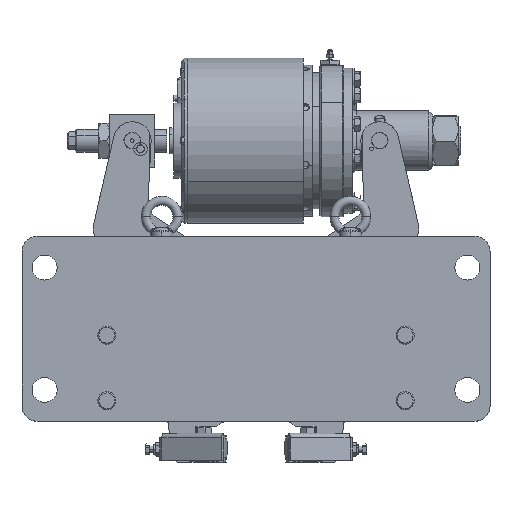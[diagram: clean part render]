
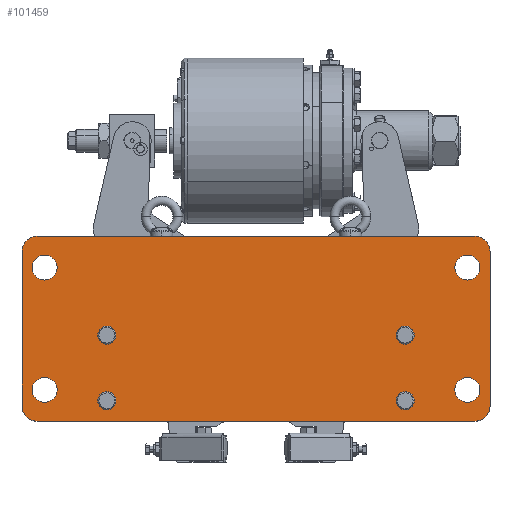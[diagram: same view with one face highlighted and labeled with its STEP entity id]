
A CAD part, top view. The second image highlights one B-rep face of the part: STEP entity #101459.
In plain terms, the highlighted planar face has unit normal (0, 0, 1).
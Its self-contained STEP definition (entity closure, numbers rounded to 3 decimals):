
#100494=CARTESIAN_POINT('',(290.,225.,45.));
#100495=DIRECTION('',(0.,0.,-1.));
#100496=DIRECTION('',(0.,1.,0.));
#100497=AXIS2_PLACEMENT_3D('',#100494,#100495,#100496);
#100502=CARTESIAN_POINT('',(290.,20.,45.));
#100503=DIRECTION('',(0.,0.,-1.));
#100504=DIRECTION('',(1.,0.,0.));
#100505=AXIS2_PLACEMENT_3D('',#100502,#100503,#100504);
#100510=CARTESIAN_POINT('',(-290.,20.,45.));
#100511=DIRECTION('',(0.,0.,-1.));
#100512=DIRECTION('',(0.,-1.,0.));
#100513=AXIS2_PLACEMENT_3D('',#100510,#100511,#100512);
#100518=CARTESIAN_POINT('',(-290.,225.,45.));
#100519=DIRECTION('',(0.,0.,-1.));
#100520=DIRECTION('',(-1.,0.,0.));
#100521=AXIS2_PLACEMENT_3D('',#100518,#100519,#100520);
#100526=CARTESIAN_POINT('',(197.5,27.,45.));
#100527=DIRECTION('',(0.,0.,1.));
#100528=DIRECTION('',(1.,0.,0.));
#100529=AXIS2_PLACEMENT_3D('',#100526,#100527,#100528);
#100534=CARTESIAN_POINT('',(197.5,27.,45.));
#100535=DIRECTION('',(0.,0.,1.));
#100536=DIRECTION('',(-1.,0.,0.));
#100537=AXIS2_PLACEMENT_3D('',#100534,#100535,#100536);
#100542=CARTESIAN_POINT('',(197.5,114.,45.));
#100543=DIRECTION('',(0.,0.,1.));
#100544=DIRECTION('',(1.,0.,0.));
#100545=AXIS2_PLACEMENT_3D('',#100542,#100543,#100544);
#100550=CARTESIAN_POINT('',(197.5,114.,45.));
#100551=DIRECTION('',(0.,0.,1.));
#100552=DIRECTION('',(-1.,0.,0.));
#100553=AXIS2_PLACEMENT_3D('',#100550,#100551,#100552);
#100558=CARTESIAN_POINT('',(-197.5,27.,45.));
#100559=DIRECTION('',(0.,0.,1.));
#100560=DIRECTION('',(1.,0.,0.));
#100561=AXIS2_PLACEMENT_3D('',#100558,#100559,#100560);
#100566=CARTESIAN_POINT('',(-197.5,27.,45.));
#100567=DIRECTION('',(0.,0.,1.));
#100568=DIRECTION('',(-1.,0.,0.));
#100569=AXIS2_PLACEMENT_3D('',#100566,#100567,#100568);
#100574=CARTESIAN_POINT('',(-197.5,114.,45.));
#100575=DIRECTION('',(0.,0.,1.));
#100576=DIRECTION('',(1.,0.,0.));
#100577=AXIS2_PLACEMENT_3D('',#100574,#100575,#100576);
#100582=CARTESIAN_POINT('',(-197.5,114.,45.));
#100583=DIRECTION('',(0.,0.,1.));
#100584=DIRECTION('',(-1.,0.,0.));
#100585=AXIS2_PLACEMENT_3D('',#100582,#100583,#100584);
#100590=CARTESIAN_POINT('',(280.,41.5,45.));
#100591=DIRECTION('',(0.,0.,1.));
#100592=DIRECTION('',(-1.,0.,0.));
#100593=AXIS2_PLACEMENT_3D('',#100590,#100591,#100592);
#100598=CARTESIAN_POINT('',(280.,41.5,45.));
#100599=DIRECTION('',(0.,0.,1.));
#100600=DIRECTION('',(1.,0.,0.));
#100601=AXIS2_PLACEMENT_3D('',#100598,#100599,#100600);
#100606=CARTESIAN_POINT('',(-280.,41.5,45.));
#100607=DIRECTION('',(0.,0.,1.));
#100608=DIRECTION('',(-1.,0.,0.));
#100609=AXIS2_PLACEMENT_3D('',#100606,#100607,#100608);
#100614=CARTESIAN_POINT('',(-280.,41.5,45.));
#100615=DIRECTION('',(0.,0.,1.));
#100616=DIRECTION('',(1.,0.,0.));
#100617=AXIS2_PLACEMENT_3D('',#100614,#100615,#100616);
#100622=CARTESIAN_POINT('',(-280.,203.5,45.));
#100623=DIRECTION('',(0.,0.,1.));
#100624=DIRECTION('',(-1.,0.,0.));
#100625=AXIS2_PLACEMENT_3D('',#100622,#100623,#100624);
#100630=CARTESIAN_POINT('',(-280.,203.5,45.));
#100631=DIRECTION('',(0.,0.,1.));
#100632=DIRECTION('',(1.,0.,0.));
#100633=AXIS2_PLACEMENT_3D('',#100630,#100631,#100632);
#100638=CARTESIAN_POINT('',(280.,203.5,45.));
#100639=DIRECTION('',(0.,0.,1.));
#100640=DIRECTION('',(-1.,0.,0.));
#100641=AXIS2_PLACEMENT_3D('',#100638,#100639,#100640);
#100646=CARTESIAN_POINT('',(280.,203.5,45.));
#100647=DIRECTION('',(0.,0.,1.));
#100648=DIRECTION('',(1.,0.,0.));
#100649=AXIS2_PLACEMENT_3D('',#100646,#100647,#100648);
#100654=DIRECTION('',(-1.,0.,0.));
#100655=VECTOR('',#100654,580.);
#100656=CARTESIAN_POINT('',(290.,245.,45.));
#100657=LINE('',#100656,#100655);
#101009=DIRECTION('',(0.,-1.,0.));
#101010=VECTOR('',#101009,205.);
#101011=CARTESIAN_POINT('',(-310.,225.,45.));
#101012=LINE('',#101011,#101010);
#101030=DIRECTION('',(1.,0.,0.));
#101031=VECTOR('',#101030,580.);
#101032=CARTESIAN_POINT('',(-290.,0.,45.));
#101033=LINE('',#101032,#101031);
#101051=DIRECTION('',(0.,1.,0.));
#101052=VECTOR('',#101051,205.);
#101053=CARTESIAN_POINT('',(310.,20.,45.));
#101054=LINE('',#101053,#101052);
#101256=CARTESIAN_POINT('',(-185.5,114.,45.));
#101258=VERTEX_POINT('',#101256);
#101262=CARTESIAN_POINT('',(-209.5,114.,45.));
#101263=VERTEX_POINT('',#101262);
#101264=CARTESIAN_POINT('',(290.,245.,45.));
#101265=CARTESIAN_POINT('',(-290.,245.,45.));
#101266=VERTEX_POINT('',#101264);
#101267=VERTEX_POINT('',#101265);
#101268=CARTESIAN_POINT('',(310.,225.,45.));
#101269=VERTEX_POINT('',#101268);
#101270=CARTESIAN_POINT('',(310.,20.,45.));
#101271=VERTEX_POINT('',#101270);
#101272=CARTESIAN_POINT('',(290.,0.,45.));
#101273=VERTEX_POINT('',#101272);
#101274=CARTESIAN_POINT('',(-290.,0.,45.));
#101275=VERTEX_POINT('',#101274);
#101276=CARTESIAN_POINT('',(-310.,20.,45.));
#101277=VERTEX_POINT('',#101276);
#101278=CARTESIAN_POINT('',(-310.,225.,45.));
#101279=VERTEX_POINT('',#101278);
#101280=CARTESIAN_POINT('',(209.5,27.,45.));
#101281=CARTESIAN_POINT('',(185.5,27.,45.));
#101282=VERTEX_POINT('',#101280);
#101283=VERTEX_POINT('',#101281);
#101284=CARTESIAN_POINT('',(209.5,114.,45.));
#101285=CARTESIAN_POINT('',(185.5,114.,45.));
#101286=VERTEX_POINT('',#101284);
#101287=VERTEX_POINT('',#101285);
#101288=CARTESIAN_POINT('',(-185.5,27.,45.));
#101289=CARTESIAN_POINT('',(-209.5,27.,45.));
#101290=VERTEX_POINT('',#101288);
#101291=VERTEX_POINT('',#101289);
#101292=CARTESIAN_POINT('',(263.5,41.5,45.));
#101293=CARTESIAN_POINT('',(296.5,41.5,45.));
#101294=VERTEX_POINT('',#101292);
#101295=VERTEX_POINT('',#101293);
#101296=CARTESIAN_POINT('',(-296.5,41.5,45.));
#101297=CARTESIAN_POINT('',(-263.5,41.5,45.));
#101298=VERTEX_POINT('',#101296);
#101299=VERTEX_POINT('',#101297);
#101300=CARTESIAN_POINT('',(-296.5,203.5,45.));
#101301=CARTESIAN_POINT('',(-263.5,203.5,45.));
#101302=VERTEX_POINT('',#101300);
#101303=VERTEX_POINT('',#101301);
#101304=CARTESIAN_POINT('',(263.5,203.5,45.));
#101305=CARTESIAN_POINT('',(296.5,203.5,45.));
#101306=VERTEX_POINT('',#101304);
#101307=VERTEX_POINT('',#101305);
#101390=CARTESIAN_POINT('',(0.,0.,45.));
#101391=DIRECTION('',(0.,0.,1.));
#101392=DIRECTION('',(1.,0.,0.));
#101393=AXIS2_PLACEMENT_3D('',#101390,#101391,#101392);
#101394=PLANE('',#101393);
#101396=ORIENTED_EDGE('',*,*,#101395,.F.);
#101398=ORIENTED_EDGE('',*,*,#101397,.T.);
#101400=ORIENTED_EDGE('',*,*,#101399,.F.);
#101402=ORIENTED_EDGE('',*,*,#101401,.T.);
#101404=ORIENTED_EDGE('',*,*,#101403,.F.);
#101406=ORIENTED_EDGE('',*,*,#101405,.T.);
#101408=ORIENTED_EDGE('',*,*,#101407,.F.);
#101410=ORIENTED_EDGE('',*,*,#101409,.T.);
#101411=EDGE_LOOP('',(#101396,#101398,#101400,#101402,#101404,#101406,#101408,
#101410));
#101412=FACE_OUTER_BOUND('',#101411,.F.);
#101414=ORIENTED_EDGE('',*,*,#101413,.T.);
#101416=ORIENTED_EDGE('',*,*,#101415,.T.);
#101417=EDGE_LOOP('',(#101414,#101416));
#101418=FACE_BOUND('',#101417,.F.);
#101420=ORIENTED_EDGE('',*,*,#101419,.T.);
#101422=ORIENTED_EDGE('',*,*,#101421,.T.);
#101423=EDGE_LOOP('',(#101420,#101422));
#101424=FACE_BOUND('',#101423,.F.);
#101426=ORIENTED_EDGE('',*,*,#101425,.T.);
#101428=ORIENTED_EDGE('',*,*,#101427,.T.);
#101429=EDGE_LOOP('',(#101426,#101428));
#101430=FACE_BOUND('',#101429,.F.);
#101431=ORIENTED_EDGE('',*,*,#101371,.T.);
#101432=ORIENTED_EDGE('',*,*,#101381,.T.);
#101433=EDGE_LOOP('',(#101431,#101432));
#101434=FACE_BOUND('',#101433,.F.);
#101436=ORIENTED_EDGE('',*,*,#101435,.T.);
#101438=ORIENTED_EDGE('',*,*,#101437,.T.);
#101439=EDGE_LOOP('',(#101436,#101438));
#101440=FACE_BOUND('',#101439,.F.);
#101442=ORIENTED_EDGE('',*,*,#101441,.T.);
#101444=ORIENTED_EDGE('',*,*,#101443,.T.);
#101445=EDGE_LOOP('',(#101442,#101444));
#101446=FACE_BOUND('',#101445,.F.);
#101448=ORIENTED_EDGE('',*,*,#101447,.T.);
#101450=ORIENTED_EDGE('',*,*,#101449,.T.);
#101451=EDGE_LOOP('',(#101448,#101450));
#101452=FACE_BOUND('',#101451,.F.);
#101454=ORIENTED_EDGE('',*,*,#101453,.T.);
#101456=ORIENTED_EDGE('',*,*,#101455,.T.);
#101457=EDGE_LOOP('',(#101454,#101456));
#101458=FACE_BOUND('',#101457,.F.);
#101459=ADVANCED_FACE('',(#101412,#101418,#101424,#101430,#101434,#101440,
#101446,#101452,#101458),#101394,.T.);
#100498=CIRCLE('',#100497,20.);
#100506=CIRCLE('',#100505,20.);
#100514=CIRCLE('',#100513,20.);
#100522=CIRCLE('',#100521,20.);
#100530=CIRCLE('',#100529,12.);
#100538=CIRCLE('',#100537,12.);
#100546=CIRCLE('',#100545,12.);
#100554=CIRCLE('',#100553,12.);
#100562=CIRCLE('',#100561,12.);
#100570=CIRCLE('',#100569,12.);
#100578=CIRCLE('',#100577,12.);
#100586=CIRCLE('',#100585,12.);
#100594=CIRCLE('',#100593,16.5);
#100602=CIRCLE('',#100601,16.5);
#100610=CIRCLE('',#100609,16.5);
#100618=CIRCLE('',#100617,16.5);
#100626=CIRCLE('',#100625,16.5);
#100634=CIRCLE('',#100633,16.5);
#100642=CIRCLE('',#100641,16.5);
#100650=CIRCLE('',#100649,16.5);
#101371=EDGE_CURVE('',#101258,#101263,#100578,.T.);
#101381=EDGE_CURVE('',#101263,#101258,#100586,.T.);
#101395=EDGE_CURVE('',#101266,#101267,#100657,.T.);
#101397=EDGE_CURVE('',#101266,#101269,#100498,.T.);
#101399=EDGE_CURVE('',#101271,#101269,#101054,.T.);
#101401=EDGE_CURVE('',#101271,#101273,#100506,.T.);
#101403=EDGE_CURVE('',#101275,#101273,#101033,.T.);
#101405=EDGE_CURVE('',#101275,#101277,#100514,.T.);
#101407=EDGE_CURVE('',#101279,#101277,#101012,.T.);
#101409=EDGE_CURVE('',#101279,#101267,#100522,.T.);
#101413=EDGE_CURVE('',#101282,#101283,#100530,.T.);
#101415=EDGE_CURVE('',#101283,#101282,#100538,.T.);
#101419=EDGE_CURVE('',#101286,#101287,#100546,.T.);
#101421=EDGE_CURVE('',#101287,#101286,#100554,.T.);
#101425=EDGE_CURVE('',#101290,#101291,#100562,.T.);
#101427=EDGE_CURVE('',#101291,#101290,#100570,.T.);
#101435=EDGE_CURVE('',#101294,#101295,#100594,.T.);
#101437=EDGE_CURVE('',#101295,#101294,#100602,.T.);
#101441=EDGE_CURVE('',#101298,#101299,#100610,.T.);
#101443=EDGE_CURVE('',#101299,#101298,#100618,.T.);
#101447=EDGE_CURVE('',#101302,#101303,#100626,.T.);
#101449=EDGE_CURVE('',#101303,#101302,#100634,.T.);
#101453=EDGE_CURVE('',#101306,#101307,#100642,.T.);
#101455=EDGE_CURVE('',#101307,#101306,#100650,.T.);
